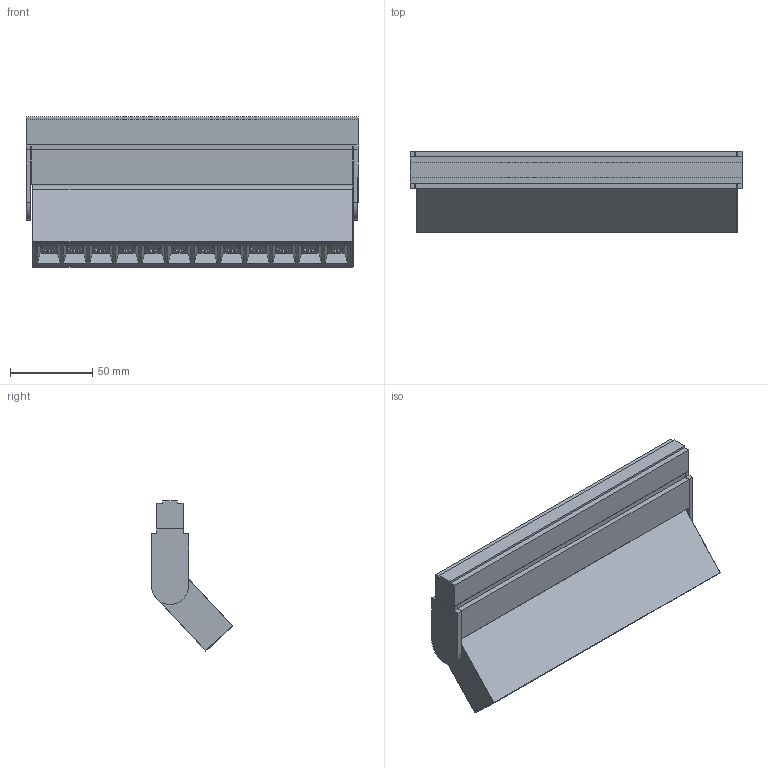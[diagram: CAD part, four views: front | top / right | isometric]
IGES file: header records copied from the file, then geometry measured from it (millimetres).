
Start section: SolidWorks IGES file using analytic representation for surfaces
Global section: file name: X:\PRODUKT\Modele 3D_WWW\_KOLEKCJE WWW\_LVM\LVM-FOCUS-OUT-S-LED-10145\LVM-FOCUS-OUT-S-LED-10145.IGS; native system: SolidWorks 2021; preprocessor: SolidWorks 2021; author: gabriela.tworek; date: 220513.085248; units: millimetre
Bounding box: 202 x 49.33 x 91.3 mm (x, y, z)
Surface area: 113267.6 mm2 (no closed solid volume)
Topology: 0 solids, 0 shells, 305 faces, 1210 edges, 1164 vertices
Faces by surface type: bspline 238, revolution 67
